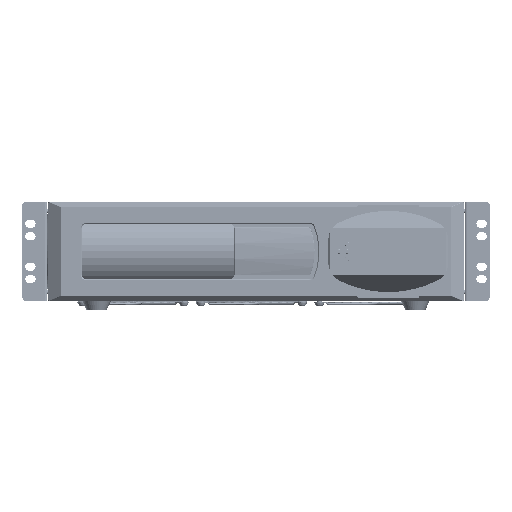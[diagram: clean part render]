
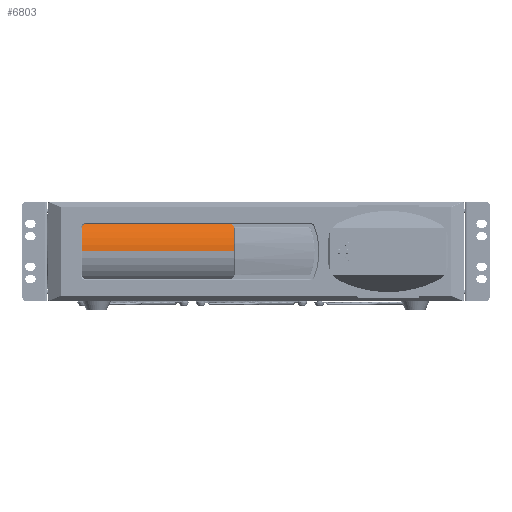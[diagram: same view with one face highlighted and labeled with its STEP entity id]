
A CAD part, left-side view. The second image highlights one B-rep face of the part: STEP entity #6803.
In plain terms, the highlighted cylindrical face has radius 40 mm (diameter 80 mm), a partial arc.
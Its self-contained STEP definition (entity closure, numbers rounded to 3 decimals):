
#491=(
BOUNDED_CURVE()
B_SPLINE_CURVE(1,(#241768,#241769),.UNSPECIFIED.,.F.,.F.)
B_SPLINE_CURVE_WITH_KNOTS((2,2),(0.,220.),.UNSPECIFIED.)
CURVE()
GEOMETRIC_REPRESENTATION_ITEM()
RATIONAL_B_SPLINE_CURVE((1.,1.))
REPRESENTATION_ITEM('')
);
#492=(
BOUNDED_CURVE()
B_SPLINE_CURVE(1,(#241773,#241774),.UNSPECIFIED.,.F.,.F.)
B_SPLINE_CURVE_WITH_KNOTS((2,2),(0.,220.),.UNSPECIFIED.)
CURVE()
GEOMETRIC_REPRESENTATION_ITEM()
RATIONAL_B_SPLINE_CURVE((1.,1.))
REPRESENTATION_ITEM('')
);
#6803=ADVANCED_FACE('',(#12728),#99429,.T.);
#12728=FACE_OUTER_BOUND('',#19702,.T.);
#19702=EDGE_LOOP('',(#41670,#41671,#41672,#41673));
#41670=ORIENTED_EDGE('',*,*,#62713,.T.);
#41671=ORIENTED_EDGE('',*,*,#62712,.F.);
#41672=ORIENTED_EDGE('',*,*,#62711,.F.);
#41673=ORIENTED_EDGE('',*,*,#62710,.T.);
#62710=EDGE_CURVE('',#94895,#94897,#72202,.T.);
#62711=EDGE_CURVE('',#94895,#94896,#491,.T.);
#62712=EDGE_CURVE('',#94896,#94898,#72203,.T.);
#62713=EDGE_CURVE('',#94897,#94898,#492,.T.);
#72202=TRIMMED_CURVE($,#77737,(#241766),(#241767),.T.,.CARTESIAN.);
#72203=TRIMMED_CURVE($,#77738,(#241771),(#241772),.T.,.CARTESIAN.);
#77737=CIRCLE('',#110605,40.);
#77738=CIRCLE('',#110606,40.);
#94895=VERTEX_POINT('',#241761);
#94896=VERTEX_POINT('',#241762);
#94897=VERTEX_POINT('',#241763);
#94898=VERTEX_POINT('',#241764);
#99429=CYLINDRICAL_SURFACE('',#110601,40.);
#110601=AXIS2_PLACEMENT_3D('',#241757,#124181,$);
#110605=AXIS2_PLACEMENT_3D($,#241765,#124185,#124186);
#110606=AXIS2_PLACEMENT_3D($,#241770,#124187,#124188);
#124181=DIRECTION('',(0.,-1.,0.));
#124185=DIRECTION('',(0.,-1.,0.));
#124186=DIRECTION('',(1.,0.,0.));
#124187=DIRECTION('',(0.,-1.,0.));
#124188=DIRECTION('',(1.,0.,0.));
#241757=CARTESIAN_POINT('',(1402.804,7379.947,48.8));
#241761=CARTESIAN_POINT('',(1442.804,7489.947,48.8));
#241762=CARTESIAN_POINT('',(1442.804,7269.947,48.8));
#241763=CARTESIAN_POINT('',(1362.804,7489.947,48.8));
#241764=CARTESIAN_POINT('',(1362.804,7269.947,48.8));
#241765=CARTESIAN_POINT('',(1402.804,7489.947,48.8));
#241766=CARTESIAN_POINT('',(1442.804,7489.947,48.8));
#241767=CARTESIAN_POINT('',(1362.804,7489.947,48.8));
#241768=CARTESIAN_POINT('',(1442.804,7489.947,48.8));
#241769=CARTESIAN_POINT('',(1442.804,7269.947,48.8));
#241770=CARTESIAN_POINT('',(1402.804,7269.947,48.8));
#241771=CARTESIAN_POINT('',(1442.804,7269.947,48.8));
#241772=CARTESIAN_POINT('',(1362.804,7269.947,48.8));
#241773=CARTESIAN_POINT('',(1362.804,7489.947,48.8));
#241774=CARTESIAN_POINT('',(1362.804,7269.947,48.8));
